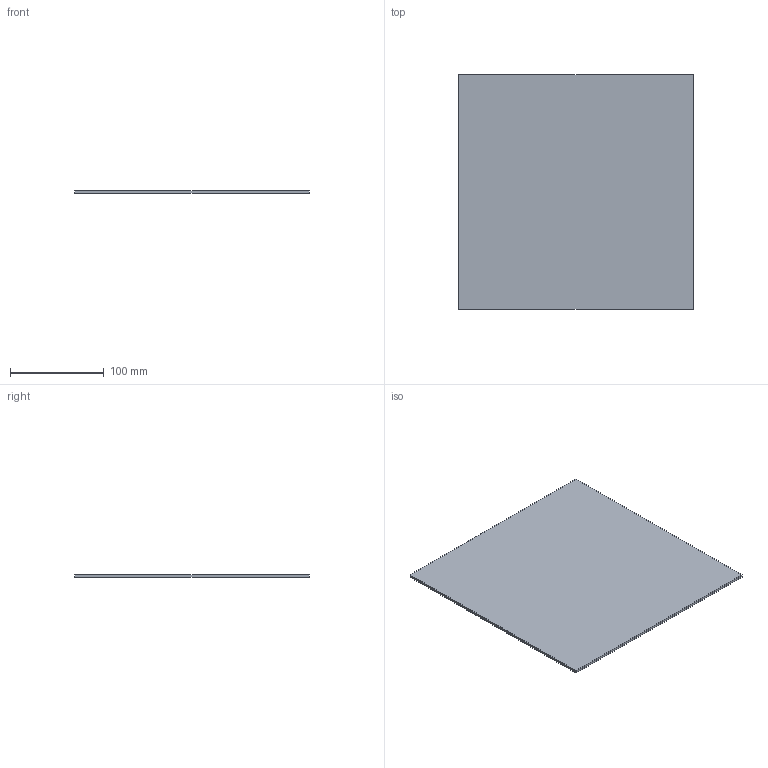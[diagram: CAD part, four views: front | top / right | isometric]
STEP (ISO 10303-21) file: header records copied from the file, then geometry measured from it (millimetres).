
FILE_DESCRIPTION (( 'STEP AP214' ), '1' );
FILE_NAME ('293463.STEP', '2021-10-21T07:46:50', ( '' ), ( '' ), 'SwSTEP 2.0', 'SolidWorks 2018', '' );
FILE_SCHEMA (( 'AUTOMOTIVE_DESIGN' ));
Length unit declared in the file: millimetre
Products named in the file (1): 293463
Bounding box: 250 x 250 x 3 mm (x, y, z)
Volume: 187500 mm3; surface area: 128000 mm2
Topology: 1 solids, 1 shells, 6 faces, 12 edges, 8 vertices
Faces by surface type: plane 6
Entity records: 190 total; most frequent: CARTESIAN_POINT 27, DIRECTION 26, ORIENTED_EDGE 24, VECTOR 12, EDGE_CURVE 12, LINE 12, VERTEX_POINT 8, AXIS2_PLACEMENT_3D 7
